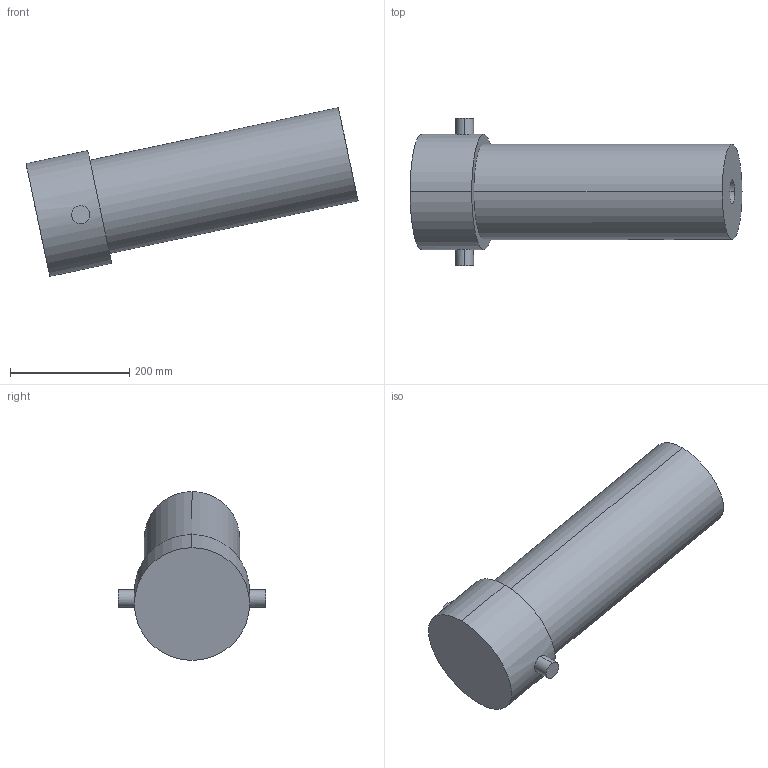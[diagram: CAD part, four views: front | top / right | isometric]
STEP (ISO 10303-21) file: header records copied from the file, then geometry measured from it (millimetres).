
FILE_DESCRIPTION (( 'STEP AP214' ), '1' );
FILE_NAME ('IRB4400_60-195_IRC5_rev02_BAL-A_CAD.STEP', '2016-11-03T06:03:39', ( 'ABB' ), ( 'ABB' ), 'SwSTEP 2.0', 'SolidWorks 2014', '' );
FILE_SCHEMA (( 'AUTOMOTIVE_DESIGN' ));
Length unit declared in the file: millimetre
Products named in the file (1): IRB4400_60-195_IRC5_rev02_BAL-A_CAD
Bounding box: 557.58 x 248 x 283.4 mm (x, y, z)
Volume: 11718106.4 mm3; surface area: 344139.5 mm2
Topology: 1 solids, 1 shells, 16 faces, 30 edges, 20 vertices
Faces by surface type: cylinder 10, plane 6
Entity records: 687 total; most frequent: CARTESIAN_POINT 263, DIRECTION 76, ORIENTED_EDGE 60, AXIS2_PLACEMENT_3D 33, EDGE_CURVE 30, VERTEX_POINT 20, EDGE_LOOP 20, ADVANCED_FACE 16
